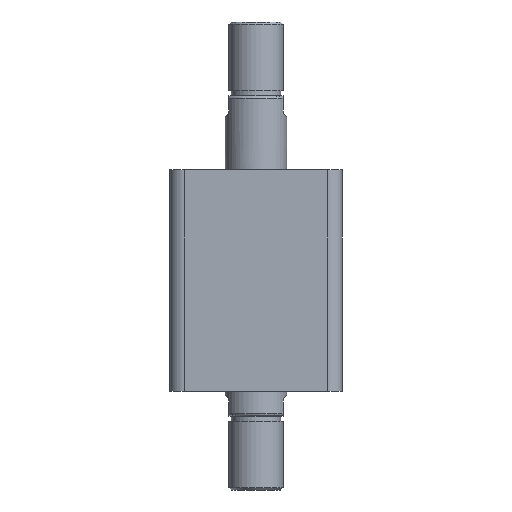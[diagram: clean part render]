
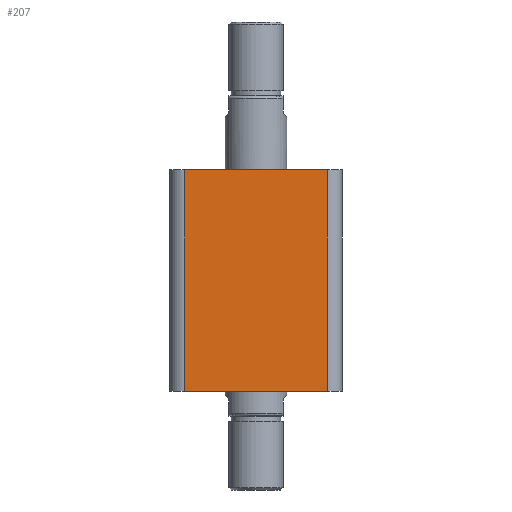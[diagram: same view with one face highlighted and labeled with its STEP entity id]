
A CAD part, front view. The second image highlights one B-rep face of the part: STEP entity #207.
In plain terms, the highlighted planar face has unit normal (0, -1, 0).
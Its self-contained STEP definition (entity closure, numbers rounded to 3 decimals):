
#207 = ADVANCED_FACE ( 'NONE', ( #1824 ), #3393, .F. ) ;
#368 = LINE ( 'NONE', #1995, #398 ) ;
#394 = LINE ( 'NONE', #1989, #396 ) ;
#396 = VECTOR ( 'NONE', #1990, 1000. ) ;
#398 = VECTOR ( 'NONE', #2000, 1000. ) ;
#404 = LINE ( 'NONE', #2002, #406 ) ;
#406 = VECTOR ( 'NONE', #1999, 1000. ) ;
#410 = LINE ( 'NONE', #2021, #412 ) ;
#412 = VECTOR ( 'NONE', #2022, 1000. ) ;
#569 = CARTESIAN_POINT ( 'NONE',  ( -29., -35., 0. ) ) ;
#570 = CARTESIAN_POINT ( 'NONE',  ( 29., -35., 90. ) ) ;
#575 = CARTESIAN_POINT ( 'NONE',  ( 29., -35., 0. ) ) ;
#583 = CARTESIAN_POINT ( 'NONE',  ( -29., -35., 90. ) ) ;
#1685 = VERTEX_POINT ( 'NONE', #569 ) ;
#1686 = VERTEX_POINT ( 'NONE', #570 ) ;
#1691 = VERTEX_POINT ( 'NONE', #575 ) ;
#1699 = VERTEX_POINT ( 'NONE', #583 ) ;
#1824 = FACE_OUTER_BOUND ( 'NONE', #2161, .T. ) ;
#1872 = DIRECTION ( 'NONE',  ( 0., 1., 0. ) ) ;
#1873 = DIRECTION ( 'NONE',  ( 0., 0., 1. ) ) ;
#1989 = CARTESIAN_POINT ( 'NONE',  ( -35., -35., 0. ) ) ;
#1990 = DIRECTION ( 'NONE',  ( 1., 0., 0. ) ) ;
#1995 = CARTESIAN_POINT ( 'NONE',  ( 29., -35., 90. ) ) ;
#1999 = DIRECTION ( 'NONE',  ( 0., 0., -1. ) ) ;
#2000 = DIRECTION ( 'NONE',  ( 0., 0., 1. ) ) ;
#2002 = CARTESIAN_POINT ( 'NONE',  ( -29., -35., 90. ) ) ;
#2021 = CARTESIAN_POINT ( 'NONE',  ( -35., -35., 90. ) ) ;
#2022 = DIRECTION ( 'NONE',  ( 1., 0., 0. ) ) ;
#2161 = EDGE_LOOP ( 'NONE', ( #3099, #3100, #3101, #3102 ) ) ;
#2926 = EDGE_CURVE ( 'NONE', #1685, #1691, #394, .T. ) ;
#2927 = EDGE_CURVE ( 'NONE', #1691, #1686, #368, .T. ) ;
#2932 = EDGE_CURVE ( 'NONE', #1699, #1685, #404, .T. ) ;
#2937 = EDGE_CURVE ( 'NONE', #1699, #1686, #410, .T. ) ;
#2962 = AXIS2_PLACEMENT_3D ( 'NONE', #3399, #1872, #1873 ) ;
#3099 = ORIENTED_EDGE ( 'NONE', *, *, #2937, .F. ) ;
#3100 = ORIENTED_EDGE ( 'NONE', *, *, #2932, .T. ) ;
#3101 = ORIENTED_EDGE ( 'NONE', *, *, #2926, .T. ) ;
#3102 = ORIENTED_EDGE ( 'NONE', *, *, #2927, .T. ) ;
#3393 = PLANE ( 'NONE',  #2962 ) ;
#3399 = CARTESIAN_POINT ( 'NONE',  ( -35., -35., 90. ) ) ;
